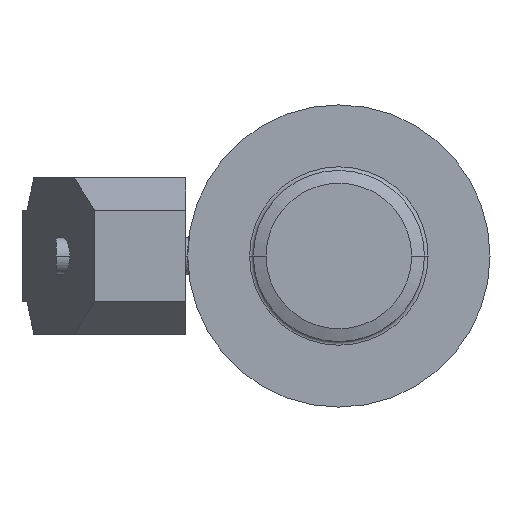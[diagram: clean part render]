
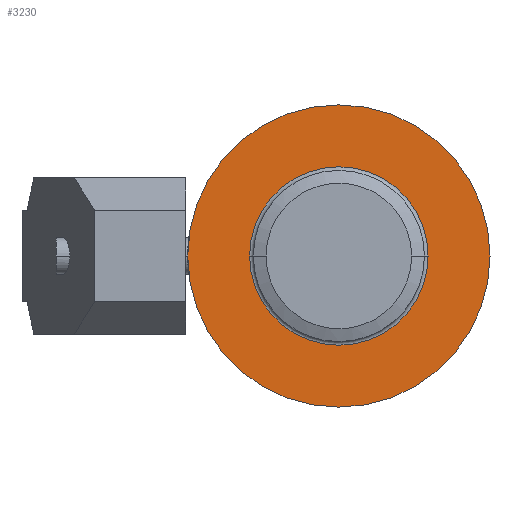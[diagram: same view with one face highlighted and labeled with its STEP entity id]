
A CAD part, left-side view. The second image highlights one B-rep face of the part: STEP entity #3230.
In plain terms, the highlighted planar face has unit normal (-1, 0, 0).
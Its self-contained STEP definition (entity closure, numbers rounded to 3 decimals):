
#560=CARTESIAN_POINT('',(-115.082,-28.723,
0.));
#570=VERTEX_POINT('',#560);
#600=CARTESIAN_POINT('',(-115.082,12.777,0.));
#610=DIRECTION('',(1.,0.,0.));
#620=DIRECTION('',(0.,1.,0.));
#630=AXIS2_PLACEMENT_3D('',#600,#610,#620);
#640=CIRCLE('',#630,41.5);
#650=CARTESIAN_POINT('',(-115.082,54.277,0.));
#660=VERTEX_POINT('',#650);
#670=EDGE_CURVE('',#660,#570,#640,.T.);
#2980=CARTESIAN_POINT('',(-115.082,51.927,0.));
#2990=DIRECTION('',(-1.,0.,0.));
#3000=DIRECTION('',(0.,1.,0.));
#3010=AXIS2_PLACEMENT_3D('',#2980,#2990,#3000);
#3020=PLANE('',#3010);
#3030=CARTESIAN_POINT('',(-115.082,12.777,0.));
#3040=DIRECTION('',(1.,0.,0.));
#3050=DIRECTION('',(0.,-1.,0.));
#3060=AXIS2_PLACEMENT_3D('',#3030,#3040,#3050);
#3070=CIRCLE('',#3060,24.5);
#3080=CARTESIAN_POINT('',(-115.082,-11.723,0.));
#3090=VERTEX_POINT('',#3080);
#3100=CARTESIAN_POINT('',(-115.082,37.277,0.));
#3110=VERTEX_POINT('',#3100);
#3120=EDGE_CURVE('',#3090,#3110,#3070,.T.);
#3130=ORIENTED_EDGE('',*,*,#3120,.T.);
#3140=EDGE_CURVE('',#3110,#3090,#3070,.T.);
#3150=ORIENTED_EDGE('',*,*,#3140,.T.);
#3160=EDGE_LOOP('',(#3150,#3130));
#3170=FACE_BOUND('',#3160,.T.);
#3180=ORIENTED_EDGE('',*,*,#670,.F.);
#3190=EDGE_CURVE('',#570,#660,#640,.T.);
#3200=ORIENTED_EDGE('',*,*,#3190,.F.);
#3210=EDGE_LOOP('',(#3200,#3180));
#3220=FACE_OUTER_BOUND('',#3210,.T.);
#3230=ADVANCED_FACE('',(#3170,#3220),#3020,.T.);
